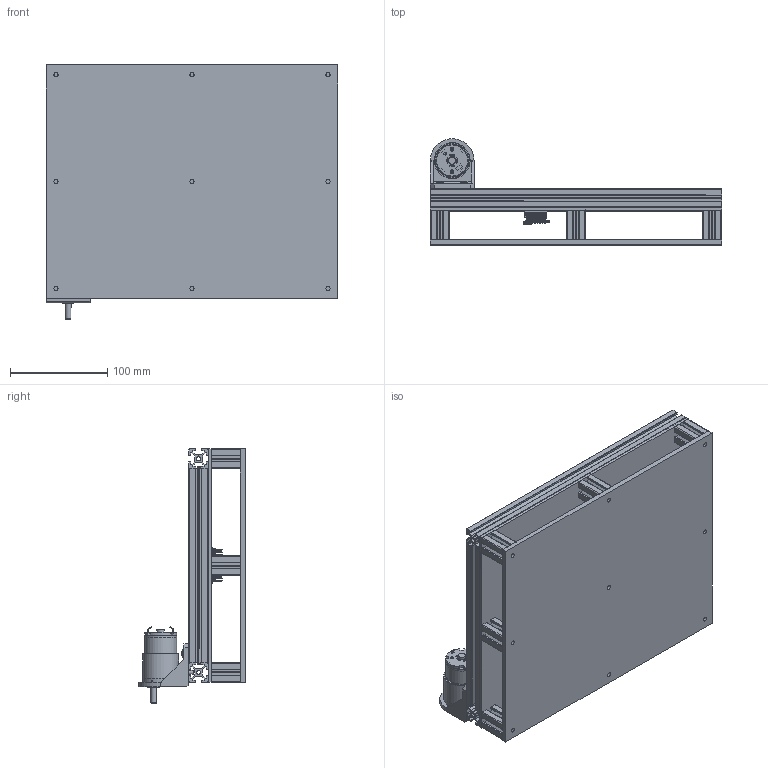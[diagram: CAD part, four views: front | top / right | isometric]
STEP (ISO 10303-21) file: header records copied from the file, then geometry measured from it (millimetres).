
FILE_DESCRIPTION(/* description */ (''),/* implementation_level */ '2;1');
FILE_NAME(/* name */ 'Assieme_staffa_jgb37.stp',/* time_stamp */ '2025-05-25T16:59:25+02:00',/* author */ ('R5800u'),/* organization */ (''),/* preprocessor_version */ 'ST-DEVELOPER v20',/* originating_system */ 'Autodesk Inventor 2025',/* authorisation */ '');
FILE_SCHEMA (('AUTOMOTIVE_DESIGN { 1 0 10303 214 3 1 1 }'));
Products named in the file (80): Assieme_drone2; tslot-20x20-1; tslot-20x20-1_MIR; tslot-20x20-2; SNSD20x20_MIR; SNSD20x20; pianale1; pianale2; pianale_superiore; tslot-20x20-3; Assembly; pcb; JST - PH - SMD (R) - 2Pin - 2.00mm; pinheaderyellow; COMPOUND; COMPOUND_1; COMPOUND_2; COMPOUND_3; COMPOUND_4; COMPOUND_5; COMPOUND_6; COMPOUND_7; COMPOUND_8; COMPOUND_9; COMPOUND_10; COMPOUND_11; COMPOUND_12; COMPOUND_13; COMPOUND_14; COMPOUND_15; COMPOUND_16; COMPOUND_17; pinheader8Red; COMPOUND_18; COMPOUND_19; COMPOUND_20; COMPOUND_21; COMPOUND_22; COMPOUND_23; COMPOUND_24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
Assembly tree (103 placements, depth 5):
  Assieme_drone2
    tslot-20x20-1
    tslot-20x20-1_MIR
    tslot-20x20-2  x3
    SNSD20x20  x3
    SNSD20x20_MIR  x3
    pianale1
    pianale2
    pianale_superiore
    tslot-20x20-3  x12
    Assembly
      pcb
      pinheaderyellow  x2
        COMPOUND
          COMPOUND_1
          COMPOUND_2
          COMPOUND_3
          COMPOUND_4
          COMPOUND_5
          COMPOUND_6
          COMPOUND_7
          COMPOUND_8
        COMPOUND_9
          COMPOUND_10
          COMPOUND_11
          COMPOUND_12
          COMPOUND_13
          COMPOUND_14
          COMPOUND_15
          COMPOUND_16
          COMPOUND_17
      pinheader8Red  x2
        COMPOUND_18
          COMPOUND_19
          COMPOUND_20
          COMPOUND_21
          COMPOUND_22
          COMPOUND_23
          COMPOUND_24
          COMPOUND_25
          COMPOUND_26
        COMPOUND_27
          COMPOUND_28
          COMPOUND_29
          COMPOUND_30
          COMPOUND_31
          COMPOUND_32
          COMPOUND_33
          COMPOUND_34
          COMPOUND_35
      pinheader8Black  x2
        COMPOUND_36
          COMPOUND_37
          COMPOUND_38
          COMPOUND_39
          COMPOUND_40
          COMPOUND_41
          COMPOUND_42
          COMPOUND_43
          COMPOUND_44
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Bounding box: 300.03 x 109.62 x 261.5 mm (x, y, z)
Volume: 904642.6 mm3; surface area: 628086.4 mm2
Topology: 112 solids, 196 shells, 6130 faces, 16245 edges, 10515 vertices
Faces by surface type: plane 5147, cylinder 835, bspline 56, cone 55, torus 29, sphere 8
Full cylindrical faces by diameter (mm): 0.6 x2, 0.7 x64, 1.6 x3, 2 x3, 2.1 x2, 2.5 x6, 2.6 x3, 3.5 x6, 3.571 x3, 4 x6, 4.2 x20, 4.3 x9, 5.3 x6, 6 x4, 7.5 x1, 12 x1, 12.5 x1, 32 x2, 33 x1, 34 x1, 35.4 x1, 37 x1
Entity records: 104240 total; most frequent: CARTESIAN_POINT 19325, ORIENTED_EDGE 16558, DIRECTION 16127, EDGE_CURVE 8391, LINE 7037, VECTOR 7037, VERTEX_POINT 5391, AXIS2_PLACEMENT_3D 4545
